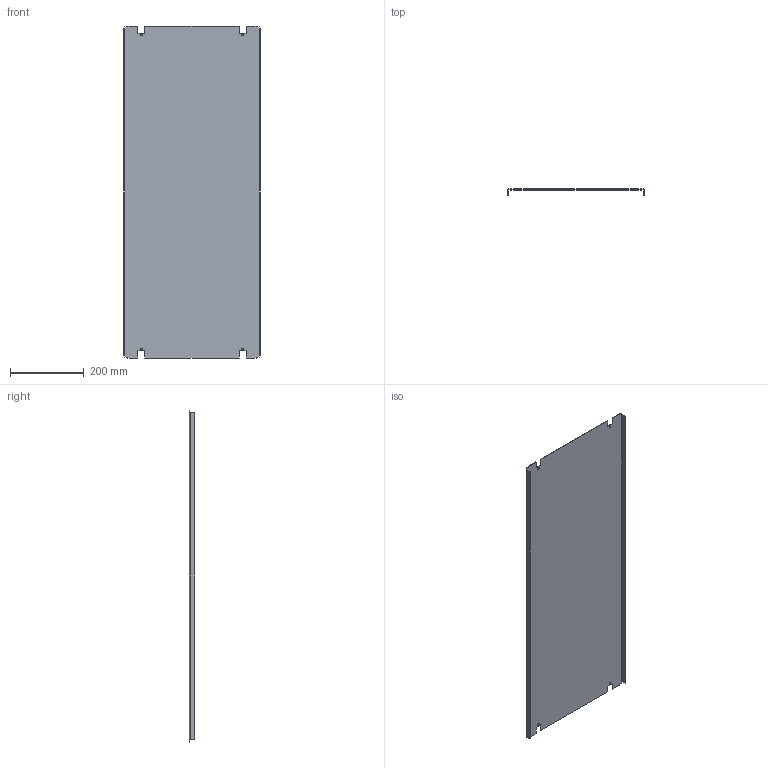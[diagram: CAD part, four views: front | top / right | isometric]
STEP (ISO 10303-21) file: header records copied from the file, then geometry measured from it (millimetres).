
FILE_DESCRIPTION(('CAx-IF Rec.Pracs.---Model Styling and Organization---1.2---2011-12-15','CAx-IF Rec.Pracs.---Geometric and Assembly Validation Properties---4.1---2014-06-16','CAx-IF Rec.Pracs.---PMI Polyline Presentation---2.0---2013-05-24'),'2;1');
FILE_NAME('R5CPL1040.stp','2021-05-06T03:47:28+03:00',(''),(''),'STEP Interface 4.4 by CT CoreTechnologie','3D_Evolution4.4 by CT CoreTechnologie','');
FILE_SCHEMA(('AUTOMOTIVE_DESIGN { 1 0 10303 214 1 1 1 1 }'));
Length unit declared in the file: millimetre
Products named in the file (2): R5CPL1040; RB.0549.00.00.0_-27
Assembly tree (1 placements, depth 2):
  R5CPL1040
    RB.0549.00.00.0_-27
Bounding box: 369 x 15 x 899 mm (x, y, z)
Surface area: 709441.7 mm2 (no closed solid volume)
Topology: 0 solids, 1 shells, 56 faces, 158 edges, 104 vertices
Faces by surface type: plane 44, cylinder 12
Entity records: 1883 total; most frequent: CARTESIAN_POINT 320, ORIENTED_EDGE 316, DIRECTION 298, EDGE_CURVE 158, VECTOR 134, LINE 134, VERTEX_POINT 104, AXIS2_PLACEMENT_3D 82
